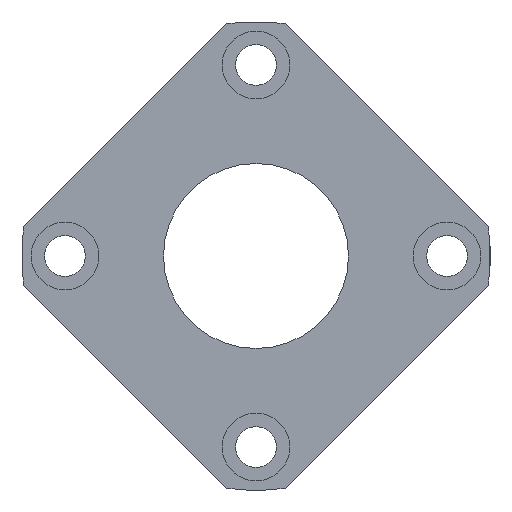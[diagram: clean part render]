
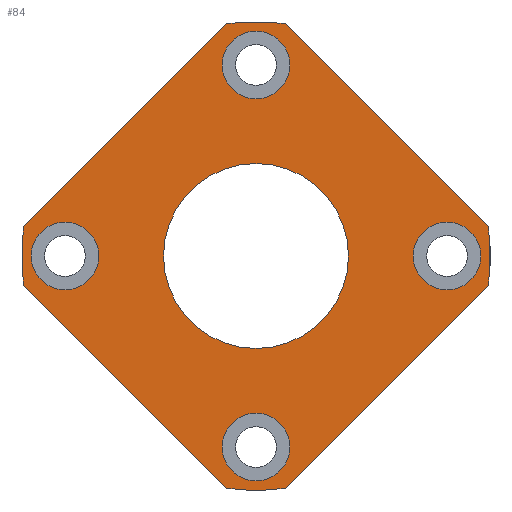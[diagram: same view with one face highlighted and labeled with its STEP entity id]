
A CAD part, left-side view. The second image highlights one B-rep face of the part: STEP entity #84.
In plain terms, the highlighted planar face has unit normal (-1, 0, 0).
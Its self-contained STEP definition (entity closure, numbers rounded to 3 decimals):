
#84 = ADVANCED_FACE( '', ( #125, #126, #127, #128, #129, #130 ), #131, .T. );
#125 = FACE_BOUND( '', #200, .T. );
#126 = FACE_BOUND( '', #201, .T. );
#127 = FACE_OUTER_BOUND( '', #202, .T. );
#128 = FACE_BOUND( '', #203, .T. );
#129 = FACE_BOUND( '', #204, .T. );
#130 = FACE_BOUND( '', #205, .T. );
#131 = PLANE( '', #206 );
#200 = EDGE_LOOP( '', ( #321 ) );
#201 = EDGE_LOOP( '', ( #322 ) );
#202 = EDGE_LOOP( '', ( #323, #324, #325, #326, #327, #328, #329, #330 ) );
#203 = EDGE_LOOP( '', ( #331 ) );
#204 = EDGE_LOOP( '', ( #332 ) );
#205 = EDGE_LOOP( '', ( #333 ) );
#206 = AXIS2_PLACEMENT_3D( '', #334, #335, #336 );
#321 = ORIENTED_EDGE( '', *, *, #444, .T. );
#322 = ORIENTED_EDGE( '', *, *, #434, .T. );
#323 = ORIENTED_EDGE( '', *, *, #445, .F. );
#324 = ORIENTED_EDGE( '', *, *, #430, .F. );
#325 = ORIENTED_EDGE( '', *, *, #419, .F. );
#326 = ORIENTED_EDGE( '', *, *, #427, .F. );
#327 = ORIENTED_EDGE( '', *, *, #415, .F. );
#328 = ORIENTED_EDGE( '', *, *, #429, .F. );
#329 = ORIENTED_EDGE( '', *, *, #423, .F. );
#330 = ORIENTED_EDGE( '', *, *, #443, .F. );
#331 = ORIENTED_EDGE( '', *, *, #446, .T. );
#332 = ORIENTED_EDGE( '', *, *, #447, .T. );
#333 = ORIENTED_EDGE( '', *, *, #448, .T. );
#334 = CARTESIAN_POINT( '', ( 0., 38., 0. ) );
#335 = DIRECTION( '', ( -1., 0., 0. ) );
#336 = DIRECTION( '', ( 0., 0., 1. ) );
#415 = EDGE_CURVE( '', #459, #461, #462, .T. );
#419 = EDGE_CURVE( '', #467, #469, #470, .T. );
#423 = EDGE_CURVE( '', #475, #477, #478, .T. );
#427 = EDGE_CURVE( '', #461, #467, #483, .T. );
#429 = EDGE_CURVE( '', #477, #459, #485, .T. );
#430 = EDGE_CURVE( '', #469, #486, #487, .T. );
#434 = EDGE_CURVE( '', #493, #493, #494, .F. );
#443 = EDGE_CURVE( '', #508, #475, #510, .T. );
#444 = EDGE_CURVE( '', #511, #511, #512, .T. );
#445 = EDGE_CURVE( '', #486, #508, #513, .T. );
#446 = EDGE_CURVE( '', #514, #514, #515, .T. );
#447 = EDGE_CURVE( '', #516, #516, #517, .T. );
#448 = EDGE_CURVE( '', #518, #518, #519, .T. );
#459 = VERTEX_POINT( '', #539 );
#461 = VERTEX_POINT( '', #542 );
#462 = LINE( '', #543, #544 );
#467 = VERTEX_POINT( '', #551 );
#469 = VERTEX_POINT( '', #554 );
#470 = LINE( '', #555, #556 );
#475 = VERTEX_POINT( '', #563 );
#477 = VERTEX_POINT( '', #566 );
#478 = LINE( '', #567, #568 );
#483 = CIRCLE( '', #575, 38. );
#485 = CIRCLE( '', #577, 38. );
#486 = VERTEX_POINT( '', #578 );
#487 = CIRCLE( '', #579, 38. );
#493 = VERTEX_POINT( '', #586 );
#494 = CIRCLE( '', #587, 5.5 );
#508 = VERTEX_POINT( '', #602 );
#510 = CIRCLE( '', #605, 38. );
#511 = VERTEX_POINT( '', #606 );
#512 = CIRCLE( '', #607, 15. );
#513 = LINE( '', #608, #609 );
#514 = VERTEX_POINT( '', #610 );
#515 = CIRCLE( '', #611, 5.5 );
#516 = VERTEX_POINT( '', #612 );
#517 = CIRCLE( '', #613, 5.5 );
#518 = VERTEX_POINT( '', #614 );
#519 = CIRCLE( '', #615, 5.5 );
#539 = CARTESIAN_POINT( '', ( 0., -37.706, -4.721 ) );
#542 = CARTESIAN_POINT( '', ( 0., -4.721, -37.706 ) );
#543 = CARTESIAN_POINT( '', ( 0., -42.426, 0. ) );
#544 = VECTOR( '', #635, 1000. );
#551 = CARTESIAN_POINT( '', ( 0., 4.721, -37.706 ) );
#554 = CARTESIAN_POINT( '', ( 0., 37.706, -4.721 ) );
#555 = CARTESIAN_POINT( '', ( 0., 0., -42.426 ) );
#556 = VECTOR( '', #639, 1000. );
#563 = CARTESIAN_POINT( '', ( 0., -4.721, 37.706 ) );
#566 = CARTESIAN_POINT( '', ( 0., -37.706, 4.721 ) );
#567 = CARTESIAN_POINT( '', ( 0., 0., 42.426 ) );
#568 = VECTOR( '', #643, 1000. );
#575 = AXIS2_PLACEMENT_3D( '', #649, #650, #651 );
#577 = AXIS2_PLACEMENT_3D( '', #655, #656, #657 );
#578 = CARTESIAN_POINT( '', ( 0., 37.706, 4.721 ) );
#579 = AXIS2_PLACEMENT_3D( '', #658, #659, #660 );
#586 = CARTESIAN_POINT( '', ( 0., 31., 5.5 ) );
#587 = AXIS2_PLACEMENT_3D( '', #668, #669, #670 );
#602 = CARTESIAN_POINT( '', ( 0., 4.721, 37.706 ) );
#605 = AXIS2_PLACEMENT_3D( '', #691, #692, #693 );
#606 = CARTESIAN_POINT( '', ( 0., 0., -15. ) );
#607 = AXIS2_PLACEMENT_3D( '', #694, #695, #696 );
#608 = CARTESIAN_POINT( '', ( 0., 42.426, 0. ) );
#609 = VECTOR( '', #697, 1000. );
#610 = CARTESIAN_POINT( '', ( 0., 0., 25.5 ) );
#611 = AXIS2_PLACEMENT_3D( '', #698, #699, #700 );
#612 = CARTESIAN_POINT( '', ( 0., 0., -36.5 ) );
#613 = AXIS2_PLACEMENT_3D( '', #701, #702, #703 );
#614 = CARTESIAN_POINT( '', ( 0., -31., -5.5 ) );
#615 = AXIS2_PLACEMENT_3D( '', #704, #705, #706 );
#635 = DIRECTION( '', ( 0., 0.707, -0.707 ) );
#639 = DIRECTION( '', ( 0., 0.707, 0.707 ) );
#643 = DIRECTION( '', ( 0., -0.707, -0.707 ) );
#649 = CARTESIAN_POINT( '', ( 0., 0., 0. ) );
#650 = DIRECTION( '', ( 1., 0., 0. ) );
#651 = DIRECTION( '', ( 0., 0., -1. ) );
#655 = CARTESIAN_POINT( '', ( 0., 0., 0. ) );
#656 = DIRECTION( '', ( 1., 0., 0. ) );
#657 = DIRECTION( '', ( 0., 0., -1. ) );
#658 = CARTESIAN_POINT( '', ( 0., 0., 0. ) );
#659 = DIRECTION( '', ( 1., 0., 0. ) );
#660 = DIRECTION( '', ( 0., 0., -1. ) );
#668 = CARTESIAN_POINT( '', ( 0., 31., 0. ) );
#669 = DIRECTION( '', ( -1., 0., 0. ) );
#670 = DIRECTION( '', ( 0., 0., 1. ) );
#691 = CARTESIAN_POINT( '', ( 0., 0., 0. ) );
#692 = DIRECTION( '', ( 1., 0., 0. ) );
#693 = DIRECTION( '', ( 0., 0., -1. ) );
#694 = CARTESIAN_POINT( '', ( 0., 0., 0. ) );
#695 = DIRECTION( '', ( 1., 0., 0. ) );
#696 = DIRECTION( '', ( 0., 0., -1. ) );
#697 = DIRECTION( '', ( 0., -0.707, 0.707 ) );
#698 = CARTESIAN_POINT( '', ( 0., 0., 31. ) );
#699 = DIRECTION( '', ( 1., 0., 0. ) );
#700 = DIRECTION( '', ( 0., 0., -1. ) );
#701 = CARTESIAN_POINT( '', ( 0., 0., -31. ) );
#702 = DIRECTION( '', ( 1., 0., 0. ) );
#703 = DIRECTION( '', ( 0., 0., -1. ) );
#704 = CARTESIAN_POINT( '', ( 0., -31., 0. ) );
#705 = DIRECTION( '', ( 1., 0., 0. ) );
#706 = DIRECTION( '', ( 0., 0., -1. ) );
